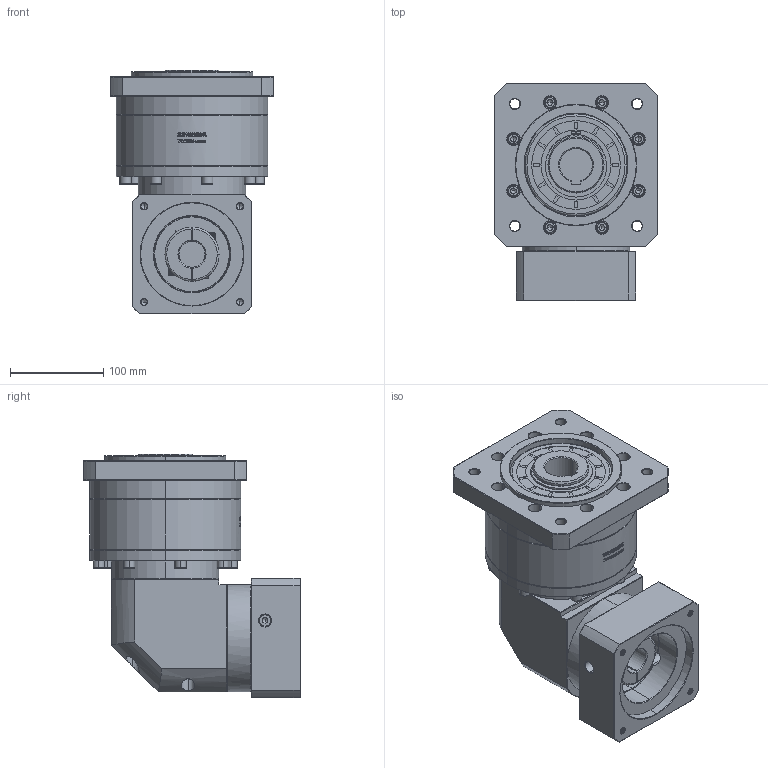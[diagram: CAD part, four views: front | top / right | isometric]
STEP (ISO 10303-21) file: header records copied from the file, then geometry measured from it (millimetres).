
FILE_DESCRIPTION (( 'STEP AP214' ), '1' );
FILE_NAME ('ZFR160A-K35-L2-28-110-145-M8.step', '2023-03-25T01:59:39', ( '' ), ( '' ), 'SwSTEP 2.0', 'SolidWorks 2016', '' );
FILE_SCHEMA (( 'AUTOMOTIVE_DESIGN' ));
Length unit declared in the file: millimetre
Products named in the file (1): ZFR160A-K35-L2-28-110-145-M8
Bounding box: 175 x 232.4 x 261.2 mm (x, y, z)
Volume: 4849429.8 mm3; surface area: 348130.2 mm2
Topology: 6 solids, 6 shells, 2726 faces, 7122 edges, 4565 vertices
Faces by surface type: plane 1367, bspline 491, cylinder 459, cone 365, torus 44
Entity records: 143718 total; most frequent: CARTESIAN_POINT 50889, ORIENTED_EDGE 14140, DIRECTION 11197, EDGE_CURVE 7070, VERTEX_POINT 4565, VECTOR 4447, LINE 4447, AXIS2_PLACEMENT_3D 3375
